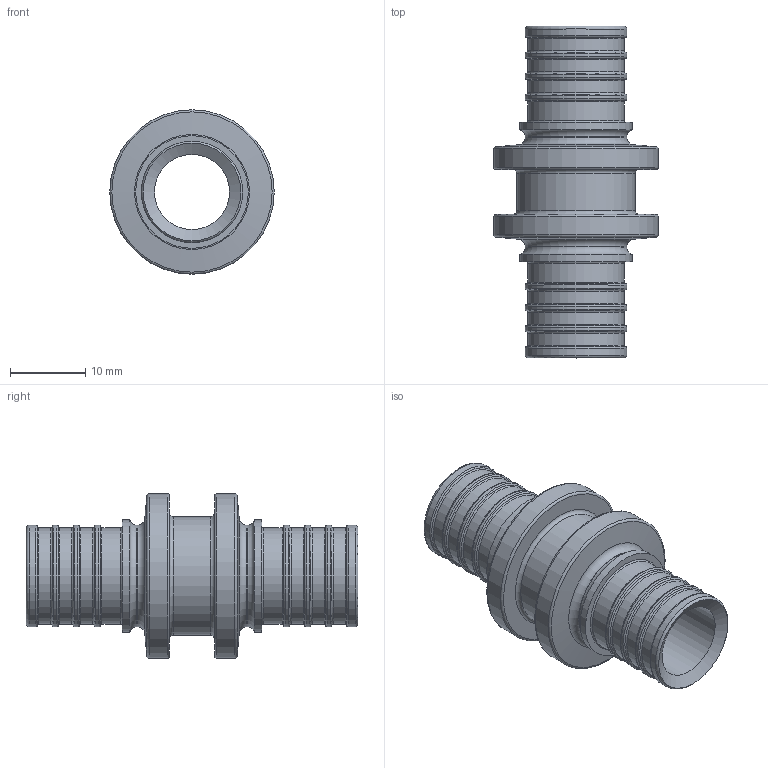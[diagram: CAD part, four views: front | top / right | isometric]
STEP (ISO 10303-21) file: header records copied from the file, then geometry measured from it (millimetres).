
FILE_DESCRIPTION(('STEP AP203'), '1');
FILE_NAME('ÂÐ.716641.003 - VTm.403.G.001616 Ôèò. íàäâ. ïð', '2024-01-23T10:55:16', ('IT'), ('VESTA'), 'C3D Converter', 'C3D Toolkit', '');
FILE_SCHEMA(('CONFIG_CONTROL_DESIGN'));
Length unit declared in the file: millimetre
Products named in the file (1): ВР.716641.003
Bounding box: 21.9 x 44.2 x 21.9 mm (x, y, z)
Volume: 4449.5 mm3; surface area: 4459.4 mm2
Topology: 1 solids, 1 shells, 75 faces, 148 edges, 78 vertices
Faces by surface type: torus 42, cylinder 24, plane 5, cone 4
Full cylindrical faces by diameter (mm): 10 x1, 12.8 x8, 13.5 x10, 15 x2, 15.8 x1, 21.9 x2
Entity records: 1569 total; most frequent: DIRECTION 308, CARTESIAN_POINT 232, ORIENTED_EDGE 156, AXIS2_PLACEMENT_3D 154, EDGE_LOOP 150, FACE_OUTER_BOUND 134, EDGE_CURVE 78, VERTEX_POINT 78
